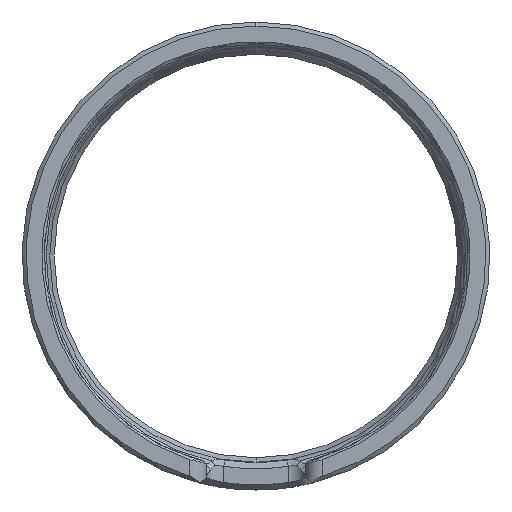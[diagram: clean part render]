
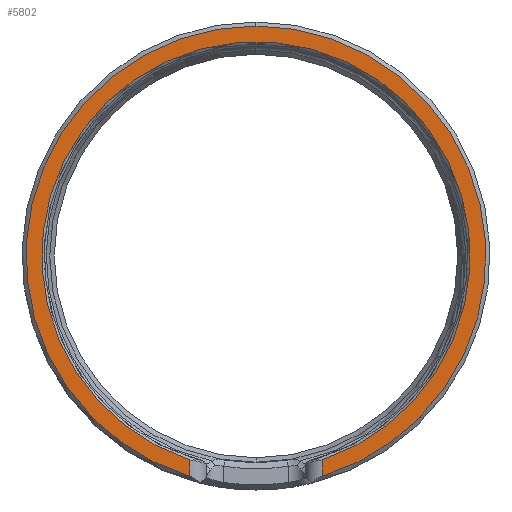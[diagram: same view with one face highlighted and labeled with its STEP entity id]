
A CAD part, left-side view. The second image highlights one B-rep face of the part: STEP entity #5802.
In plain terms, the highlighted planar face has unit normal (-1, 0, 0).
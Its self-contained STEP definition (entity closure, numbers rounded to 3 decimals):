
#300 = DIRECTION ( 'NONE',  ( 0., 0., 1. ) ) ;
#444 = PLANE ( 'NONE',  #513 ) ;
#477 = DIRECTION ( 'NONE',  ( 0., 0., -1. ) ) ;
#513 = AXIS2_PLACEMENT_3D ( 'NONE', #5871, #2599, #477 ) ;
#632 = ORIENTED_EDGE ( 'NONE', *, *, #1925, .F. ) ;
#723 = ORIENTED_EDGE ( 'NONE', *, *, #825, .T. ) ;
#815 = CIRCLE ( 'NONE', #5248, 28.5 ) ;
#825 = EDGE_CURVE ( 'NONE', #5488, #2119, #4067, .T. ) ;
#1023 = VECTOR ( 'NONE', #300, 1000. ) ;
#1439 = DIRECTION ( 'NONE',  ( 0., 0., 1. ) ) ;
#1514 = CIRCLE ( 'NONE', #4143, 28.5 ) ;
#1518 = CARTESIAN_POINT ( 'NONE',  ( -100., -8.2, -27.295 ) ) ;
#1867 = DIRECTION ( 'NONE',  ( -1., 0., 0. ) ) ;
#1925 = EDGE_CURVE ( 'NONE', #5891, #5160, #4109, .T. ) ;
#2119 = VERTEX_POINT ( 'NONE', #5089 ) ;
#2173 = CARTESIAN_POINT ( 'NONE',  ( -100., 0., 0. ) ) ;
#2195 = CIRCLE ( 'NONE', #4027, 26.55 ) ;
#2536 = CARTESIAN_POINT ( 'NONE',  ( -100., -8.2, -29. ) ) ;
#2599 = DIRECTION ( 'NONE',  ( -1., 0., 0. ) ) ;
#2805 = EDGE_CURVE ( 'NONE', #5160, #2119, #2195, .T. ) ;
#2923 = CARTESIAN_POINT ( 'NONE',  ( -100., 8.2, -29. ) ) ;
#3065 = DIRECTION ( 'NONE',  ( 0., 0., 1. ) ) ;
#3552 = ORIENTED_EDGE ( 'NONE', *, *, #2805, .F. ) ;
#3758 = ORIENTED_EDGE ( 'NONE', *, *, #5427, .T. ) ;
#3813 = DIRECTION ( 'NONE',  ( 0., 0., 1. ) ) ;
#4020 = VECTOR ( 'NONE', #3065, 1000. ) ;
#4027 = AXIS2_PLACEMENT_3D ( 'NONE', #4207, #5310, #4820 ) ;
#4067 = LINE ( 'NONE', #2923, #1023 ) ;
#4109 = LINE ( 'NONE', #2536, #4020 ) ;
#4143 = AXIS2_PLACEMENT_3D ( 'NONE', #2173, #4368, #3813 ) ;
#4207 = CARTESIAN_POINT ( 'NONE',  ( -100., 0., 0. ) ) ;
#4268 = CARTESIAN_POINT ( 'NONE',  ( -100., 0., 28.5 ) ) ;
#4325 = EDGE_CURVE ( 'NONE', #6267, #5488, #815, .T. ) ;
#4328 = CARTESIAN_POINT ( 'NONE',  ( -100., 8.2, -27.295 ) ) ;
#4368 = DIRECTION ( 'NONE',  ( -1., 0., 0. ) ) ;
#4515 = ORIENTED_EDGE ( 'NONE', *, *, #4325, .T. ) ;
#4773 = CARTESIAN_POINT ( 'NONE',  ( -100., 0., 0. ) ) ;
#4807 = CARTESIAN_POINT ( 'NONE',  ( -100., -8.2, -25.252 ) ) ;
#4820 = DIRECTION ( 'NONE',  ( 0., 0., 1. ) ) ;
#5089 = CARTESIAN_POINT ( 'NONE',  ( -100., 8.2, -25.252 ) ) ;
#5160 = VERTEX_POINT ( 'NONE', #4807 ) ;
#5248 = AXIS2_PLACEMENT_3D ( 'NONE', #4773, #1867, #1439 ) ;
#5310 = DIRECTION ( 'NONE',  ( -1., 0., 0. ) ) ;
#5311 = FACE_OUTER_BOUND ( 'NONE', #6297, .T. ) ;
#5427 = EDGE_CURVE ( 'NONE', #5891, #6267, #1514, .T. ) ;
#5488 = VERTEX_POINT ( 'NONE', #4328 ) ;
#5802 = ADVANCED_FACE ( 'NONE', ( #5311 ), #444, .T. ) ;
#5871 = CARTESIAN_POINT ( 'NONE',  ( -100., 0., 0. ) ) ;
#5891 = VERTEX_POINT ( 'NONE', #1518 ) ;
#6267 = VERTEX_POINT ( 'NONE', #4268 ) ;
#6297 = EDGE_LOOP ( 'NONE', ( #632, #3758, #4515, #723, #3552 ) ) ;
